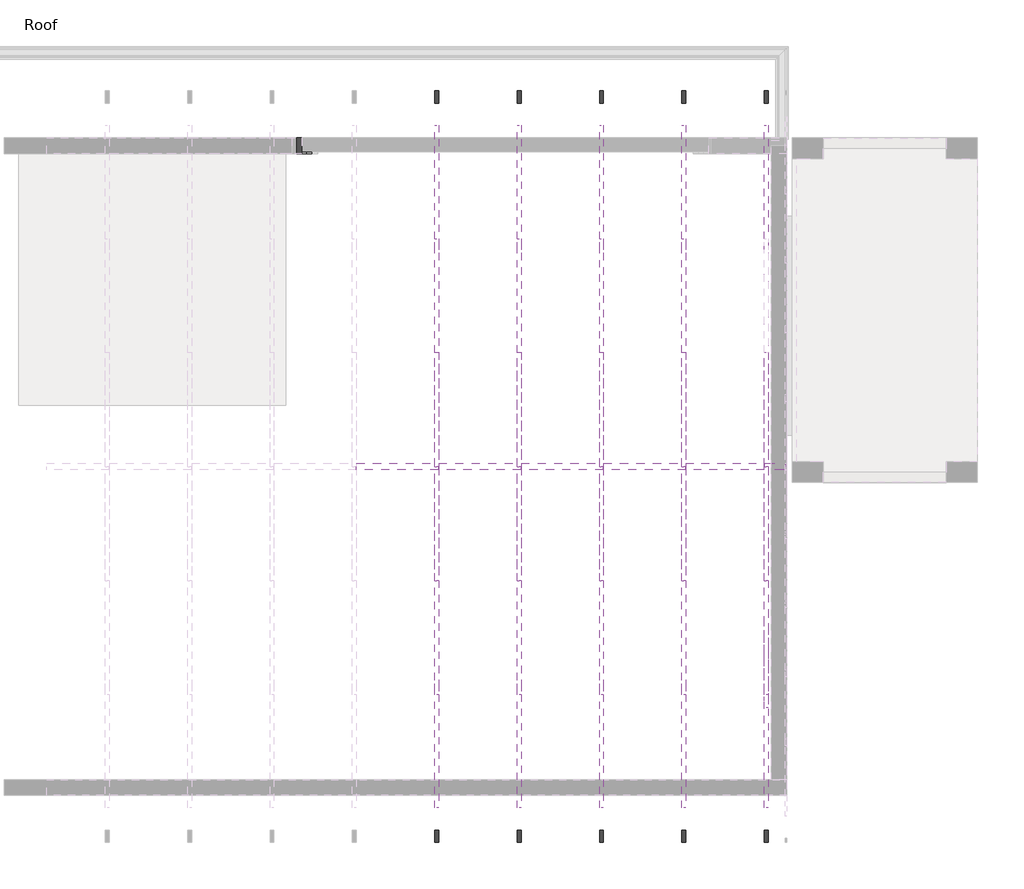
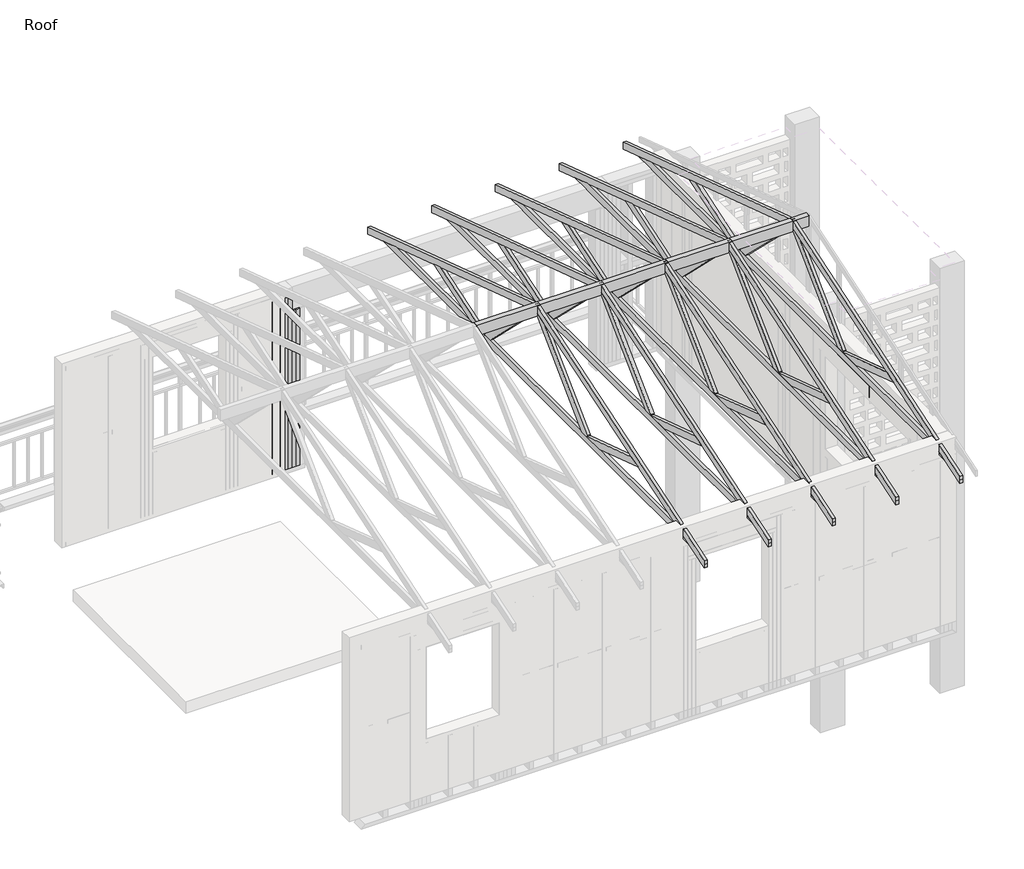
# One storey, part 5 of 6: 95 beams.
"""IFC4 building model written with IfcOpenShell, lengths in millimetres."""

import ifcopenshell
import ifcopenshell.guid

model = None  # the IFC model being written
_history = None  # IfcOwnerHistory: only IFC2X3 demands one
_inside = {}  # id of a spatial element -> (the spatial element, [elements in it])
_under = {}  # id of a project, library or spatial element -> (it, [spatial elements below it])
_declared = {}  # id of a project -> (the project, [libraries it declares])
_typed = {}  # id of a type object -> (the type object, [elements of that type])
_made_of = {}  # id of a material, layer set ... -> (it, [elements and type objects made of it])


def new_model(schema):
    """Start an empty IFC model of exactly this schema.

    Asked for "IFC4X3", IfcOpenShell would pick the latest addendum, in which some entities
    have other attributes; the version numbers below select the first issue.
    IFC2X3 requires an IfcOwnerHistory on every rooted entity: one is made here for all.
    """
    global model, _history
    if schema == "IFC4X3":
        model = ifcopenshell.file(schema_version=(4, 3, 0, 0))
    else:
        model = ifcopenshell.file(schema=schema)
    _inside.clear()
    _under.clear()
    _declared.clear()
    _typed.clear()
    _made_of.clear()
    _history = None
    if model.schema == "IFC2X3":
        org = make("IfcOrganization", Name="unknown")
        user = make(
            "IfcPersonAndOrganization",
            ThePerson=make("IfcPerson", FamilyName="unknown"),
            TheOrganization=org,
        )
        app = make(
            "IfcApplication",
            ApplicationDeveloper=org,
            Version="unknown",
            ApplicationFullName="unknown",
            ApplicationIdentifier="unknown",
        )
        _history = make(
            "IfcOwnerHistory",
            OwningUser=user,
            OwningApplication=app,
            ChangeAction="ADDED",
            CreationDate=0,
        )
    return model


def make(cls, **values):
    """One entity of the class cls with the attributes given. An attribute that is None is left unset."""
    return model.create_entity(
        cls, **{name: value for name, value in values.items() if value is not None}
    )


def rooted(cls, **values):
    """An entity with a GlobalId (a new one), such as an element, a storey or a relation."""
    return make(cls, GlobalId=ifcopenshell.guid.new(), OwnerHistory=_history, **values)


def si_unit(unit_type, name, prefix=None):
    """IfcSIUnit, for example si_unit("LENGTHUNIT", "METRE", prefix="MILLI")."""
    return make("IfcSIUnit", UnitType=unit_type, Prefix=prefix, Name=name)


def assignment(units):
    """IfcUnitAssignment: the units of a project."""
    return None if units is None else make("IfcUnitAssignment", Units=units)


def point(xyz):
    """IfcCartesianPoint."""
    return None if xyz is None else make("IfcCartesianPoint", Coordinates=xyz)


def direction(xyz):
    """IfcDirection."""
    return None if xyz is None else make("IfcDirection", DirectionRatios=xyz)


def frame(location, z_axis=None, x_axis=None):
    """IfcAxis2Placement3D, a coordinate frame: its origin and axes. An axis left out is left unset."""
    return make(
        "IfcAxis2Placement3D",
        Location=point(location),
        Axis=direction(z_axis),
        RefDirection=direction(x_axis),
    )


def origin():
    """The frame at (0, 0, 0) with its axes left unset."""
    return frame((0.0, 0.0, 0.0))


def place(relative_to, where):
    """IfcLocalPlacement: puts the frame where relative to a parent placement (None: the world)."""
    return make(
        "IfcLocalPlacement", PlacementRelTo=relative_to, RelativePlacement=where
    )


def context(
    kind, dimensions, precision=None, world=None, true_north=None, identifier=None
):
    """IfcGeometricRepresentationContext, for example the 3D "Model" context."""
    return make(
        "IfcGeometricRepresentationContext",
        ContextIdentifier=identifier,
        ContextType=kind,
        CoordinateSpaceDimension=dimensions,
        Precision=precision,
        WorldCoordinateSystem=world,
        TrueNorth=true_north,
    )


def project(units=None, contexts=None):
    """IfcProject with its units and contexts."""
    return rooted(
        "IfcProject",
        Name="project",
        RepresentationContexts=contexts,
        UnitsInContext=assignment(units),
    )


def spatial(cls, under=None, at=None, **own):
    """A site, building, storey or space (cls), placed at a placement, below another one or the project."""
    s = rooted(cls, ObjectPlacement=at, **own)
    if under is not None:
        _under.setdefault(under.id(), (under, []))[1].append(s)
    return s


def polyline(points):
    """IfcPolyline through the points."""
    return make("IfcPolyline", Points=[point(p) for p in points])


def outline(outer, holes=None, kind="AREA"):
    """IfcArbitraryClosedProfileDef: a profile drawn as a closed curve; with holes, ...WithVoids."""
    if holes is None:
        return make("IfcArbitraryClosedProfileDef", ProfileType=kind, OuterCurve=outer)
    return make(
        "IfcArbitraryProfileDefWithVoids",
        ProfileType=kind,
        OuterCurve=outer,
        InnerCurves=holes,
    )


def extrude(swept, where, along, depth):
    """IfcExtrudedAreaSolid: the profile swept, set in the frame where, extruded along a direction by depth."""
    return make(
        "IfcExtrudedAreaSolid",
        SweptArea=swept,
        Position=where,
        ExtrudedDirection=direction(along),
        Depth=depth,
    )


def shape(context_of_items, identifier, shape_type, items):
    """IfcShapeRepresentation: the items that make up one representation, for example the "Body"."""
    return make(
        "IfcShapeRepresentation",
        ContextOfItems=context_of_items,
        RepresentationIdentifier=identifier,
        RepresentationType=shape_type,
        Items=items,
    )


def source(mapping_origin, context_of_items, identifier, shape_type, items):
    """IfcRepresentationMap: a shape defined once, which mapped items show again and again."""
    return make(
        "IfcRepresentationMap",
        MappingOrigin=mapping_origin,
        MappedRepresentation=shape(context_of_items, identifier, shape_type, items),
    )


def transform(
    local_origin,
    x_axis=None,
    y_axis=None,
    z_axis=None,
    scale=None,
    scale2=None,
    scale3=None,
    uniform=True,
):
    """IfcCartesianTransformationOperator3D, or its non-uniform kind. x_axis, y_axis, z_axis: its Axis1, 2, 3."""
    if uniform:
        return make(
            "IfcCartesianTransformationOperator3D",
            Axis1=direction(x_axis),
            Axis2=direction(y_axis),
            LocalOrigin=point(local_origin),
            Scale=scale,
            Axis3=direction(z_axis),
        )
    return make(
        "IfcCartesianTransformationOperator3DnonUniform",
        Axis1=direction(x_axis),
        Axis2=direction(y_axis),
        LocalOrigin=point(local_origin),
        Scale=scale,
        Axis3=direction(z_axis),
        Scale2=scale2,
        Scale3=scale3,
    )


def mapped(mapping_source, mapping_target):
    """IfcMappedItem: shows the shape of a source again, moved by a transform."""
    return make(
        "IfcMappedItem", MappingSource=mapping_source, MappingTarget=mapping_target
    )


def made_of(thing, what):
    """Note that an element or type object is made of a material, layer set ...; save() writes the relation."""
    if what is not None:
        _made_of.setdefault(what.id(), (what, []))[1].append(thing)
    return thing


def element(
    cls,
    number,
    at=None,
    inside=None,
    cuts=None,
    type_object=None,
    material=None,
    context=None,
    identifier="Body",
    shape_type=None,
    held_by="IfcProductDefinitionShape",
    body=None,
    shapes=None,
    **own,
):
    """One element of the class cls, such as IfcWall. Its Tag is "e" and its number.

    at: its placement. inside: the storey or other place that contains it. cuts: it is an
    opening in that element (IfcRelVoidsElement). A single representation is given by context,
    identifier, shape_type and body (its items); several are given by shapes. held_by: the class
    of the entity that holds the representations. save() writes the other relations.
    """
    e = rooted(cls, Tag="e%d" % number, ObjectPlacement=at, **own)
    if body is not None:
        shapes = [shape(context, identifier, shape_type, body)]
    if shapes is not None:
        e.Representation = make(held_by, Representations=shapes)
    if inside is not None:
        _inside.setdefault(inside.id(), (inside, []))[1].append(e)
    if cuts is not None:
        rooted(
            "IfcRelVoidsElement", RelatingBuildingElement=cuts, RelatedOpeningElement=e
        )
    if type_object is not None:
        _typed.setdefault(type_object.id(), (type_object, []))[1].append(e)
    return made_of(e, material)


def aggregate(whole, parts):
    """IfcRelAggregates: a whole, such as a stair, and the parts it consists of."""
    return rooted("IfcRelAggregates", RelatingObject=whole, RelatedObjects=parts)


def save(model, path):
    """Write the relations noted so far, then the file.

    IfcRelAggregates (storeys below a building ...), IfcRelContainedInSpatialStructure (elements
    in a storey), IfcRelDefinesByType, IfcRelAssociatesMaterial and IfcRelDeclares: one each for
    every whole, place, type object, material and project.
    """
    for whole, parts in _under.values():
        aggregate(whole, parts)
    for where, things in _inside.values():
        rooted(
            "IfcRelContainedInSpatialStructure",
            RelatedElements=things,
            RelatingStructure=where,
        )
    for kind, things in _typed.values():
        rooted("IfcRelDefinesByType", RelatedObjects=things, RelatingType=kind)
    for what, things in _made_of.values():
        rooted("IfcRelAssociatesMaterial", RelatedObjects=things, RelatingMaterial=what)
    for by, libraries in _declared.values():
        rooted("IfcRelDeclares", RelatingContext=by, RelatedDefinitions=libraries)
    model.write(path)


def experttrusspart_2_x_4_5d1fd198(model_context):
    return source(origin(), model_context, "Body", "SweptSolid", [
        extrude(outline(polyline([(88.9, -3050.0718577), (44.45, -3186.2590918), (0.0, -3322.4463258), (0.0, 3322.4463258), (44.45, 3186.2590918), (88.9, 3050.0718577), (88.9, -3050.0718577)])), frame((0.0, -19.05, 0.0), z_axis=(0.0, 1.0, 0.0), x_axis=(0.0, 0.0, 1.0)), (0.0, 0.0, 1.0), 38.1),
    ])


def experttrusspart_2_x_4_7bcd8695(model_context):
    return source(origin(), model_context, "Body", "SweptSolid", [
        extrude(outline(polyline([(88.9, -1938.2540842), (44.45, -1923.7460981), (0.0, -1909.238112), (0.0, 1938.2540842), (44.45, 1923.7460981), (88.9, 1909.238112), (88.9, -1938.2540842)])), frame((0.0, -19.05, 0.0), z_axis=(0.0, 1.0, 0.0), x_axis=(0.0, 0.0, 1.0)), (0.0, 0.0, 1.0), 38.1),
    ])


def beam_a0387a4f(model_context):
    return source(origin(), model_context, "Body", "SweptSolid", [
        extrude(outline(polyline([(1042.2659716, 25.4), (1042.2659716, -25.4), (-1042.2659716, -25.4), (-1042.2659716, 25.4), (1042.2659716, 25.4)])), frame((0.0, 0.0, -76.2), z_axis=(0.0, 0.0, 1.0), x_axis=(1.0, 0.0, 0.0)), (0.0, 0.0, 1.0), 152.4),
    ])


def beam_f90036b5(model_context):
    return source(origin(), model_context, "Body", "SweptSolid", [
        extrude(outline(polyline([(1143.9504566, 25.4), (1143.9504566, -25.4), (-1143.9504566, -25.4), (-1143.9504566, 25.4), (1143.9504566, 25.4)])), frame((0.0, 0.0, -76.2), z_axis=(0.0, 0.0, 1.0), x_axis=(1.0, 0.0, 0.0)), (0.0, 0.0, 1.0), 152.4),
    ])


def beam_558964e0(model_context):
    return source(origin(), model_context, "Body", "SweptSolid", [
        extrude(outline(polyline([(1143.0, 25.4), (1143.0, -25.4), (-1143.0, -25.4), (-1143.0, 25.4), (1143.0, 25.4)])), frame((0.0, 0.0, -76.2), z_axis=(0.0, 0.0, 1.0), x_axis=(1.0, 0.0, 0.0)), (0.0, 0.0, 1.0), 152.4),
    ])


def beam_a7231d91(model_context):
    return source(origin(), model_context, "Body", "SweptSolid", [
        extrude(outline(polyline([(508.01, 25.4), (508.01, -25.4), (-508.01, -25.4), (-508.01, 25.4), (508.01, 25.4)])), frame((0.0, 0.0, -76.2), z_axis=(0.0, 0.0, 1.0), x_axis=(1.0, 0.0, 0.0)), (0.0, 0.0, 1.0), 152.4),
    ])


def beam_13b1c9db(model_context):
    return source(origin(), model_context, "Body", "SweptSolid", [
        extrude(outline(polyline([(-165.1025, -69.85), (-165.1025, 69.85), (165.1025, 69.85), (165.1025, -69.85), (-165.1025, -69.85)])), frame((0.0, 0.0, -31.75), z_axis=(0.0, 0.0, 1.0), x_axis=(1.0, 0.0, 0.0)), (0.0, 0.0, 1.0), 63.5),
    ])


model = new_model("IFC4")

# Units and contexts
model_context = context("Model", 3, world=origin())
ifc_project = project(units=[si_unit("LENGTHUNIT", "METRE", prefix="MILLI")], contexts=[model_context])

# Site, building, storey
site = spatial("IfcSite", under=ifc_project)
building = spatial("IfcBuilding", under=site)
storey = spatial("IfcBuildingStorey", under=building, Name="Roof", Elevation=4267.2)

# Beams
placement = place(None, origin())
element("IfcBeam", 1, ObjectType="ExpertTrussPart : 2 x 4", at=placement, inside=storey, context=model_context, shape_type="SweptSolid", body=[
    extrude(outline(polyline([(-21793.4464104, 6567.1254915), (-20848.8530293, 5642.2111391), (-20850.5374103, 5626.1), (-20959.4672099, 5626.1), (-21960.3763369, 6606.1568536), (-21960.3763369, 6621.6095647), (-21793.4464104, 6567.1254915)])), frame((-7337.8324099, 0.0, 0.0), z_axis=(1.0, 0.0, 0.0), x_axis=(0.0, 1.0, 0.0)), (0.0, 0.0, 1.0), 38.1),
])
element("IfcBeam", 2, ObjectType="ExpertTrussPart : 2 x 4", at=placement, inside=storey, context=model_context, shape_type="SweptSolid", body=[
    extrude(outline(polyline([(-19883.9561718, 5943.8890941), (-19812.3273277, 5920.5102353), (-19740.6984836, 5897.1313765), (-20571.0924881, 5626.1), (-20850.5374103, 5626.1), (-20850.2876203, 5628.4892463), (-19883.9561718, 5943.8890941)])), frame((-7337.8324099, 0.0, 0.0), z_axis=(1.0, 0.0, 0.0), x_axis=(0.0, 1.0, 0.0)), (0.0, 0.0, 1.0), 38.1),
])
element("IfcBeam", 3, ObjectType="ExpertTrussPart : 2 x 4", at=placement, inside=storey, context=model_context, shape_type="SweptSolid", body=[
    extrude(outline(polyline([(-22127.3062634, 6567.1254915), (-21960.3763369, 6621.6095647), (-21960.3763369, 6606.1568536), (-22961.2854639, 5626.1), (-23070.2152636, 5626.1), (-23071.8996445, 5642.2111391), (-22127.3062634, 6567.1254915)])), frame((-7337.8324099, 0.0, 0.0), z_axis=(1.0, 0.0, 0.0), x_axis=(0.0, 1.0, 0.0)), (0.0, 0.0, 1.0), 38.1),
])
element("IfcBeam", 4, ObjectType="ExpertTrussPart : 2 x 4", at=placement, inside=storey, context=model_context, shape_type="SweptSolid", body=[
    extrude(outline(polyline([(-24036.796502, 5943.8890941), (-23070.4650535, 5628.4892463), (-23070.2152636, 5626.1), (-23349.6601858, 5626.1), (-24180.0541902, 5897.1313765), (-24108.4253461, 5920.5102353), (-24036.796502, 5943.8890941)])), frame((-7337.8324099, 0.0, 0.0), z_axis=(1.0, 0.0, 0.0), x_axis=(0.0, 1.0, 0.0)), (0.0, 0.0, 1.0), 38.1),
])
element("IfcBeam", 5, ObjectType="ExpertTrussPart : 2 x 4", at=placement, inside=storey, context=model_context, shape_type="SweptSolid", body=[
    extrude(outline(polyline([(-21793.4464104, 6567.1254915), (-20848.8530293, 5642.2111391), (-20850.5374103, 5626.1), (-20959.4672099, 5626.1), (-21960.3763369, 6606.1568536), (-21960.3763369, 6621.6095647), (-21793.4464104, 6567.1254915)])), frame((-6536.0390766, 0.0, 0.0), z_axis=(1.0, 0.0, 0.0), x_axis=(0.0, 1.0, 0.0)), (0.0, 0.0, 1.0), 38.1),
])
element("IfcBeam", 6, ObjectType="ExpertTrussPart : 2 x 4", at=placement, inside=storey, context=model_context, shape_type="SweptSolid", body=[
    extrude(outline(polyline([(-19883.9561718, 5943.8890941), (-19812.3273277, 5920.5102353), (-19740.6984836, 5897.1313765), (-20571.0924881, 5626.1), (-20850.5374103, 5626.1), (-20850.2876203, 5628.4892463), (-19883.9561718, 5943.8890941)])), frame((-6536.0390766, 0.0, 0.0), z_axis=(1.0, 0.0, 0.0), x_axis=(0.0, 1.0, 0.0)), (0.0, 0.0, 1.0), 38.1),
])
element("IfcBeam", 7, ObjectType="ExpertTrussPart : 2 x 4", at=placement, inside=storey, context=model_context, shape_type="SweptSolid", body=[
    extrude(outline(polyline([(-22127.3062634, 6567.1254915), (-21960.3763369, 6621.6095647), (-21960.3763369, 6606.1568536), (-22961.2854639, 5626.1), (-23070.2152636, 5626.1), (-23071.8996445, 5642.2111391), (-22127.3062634, 6567.1254915)])), frame((-6536.0390766, 0.0, 0.0), z_axis=(1.0, 0.0, 0.0), x_axis=(0.0, 1.0, 0.0)), (0.0, 0.0, 1.0), 38.1),
])
element("IfcBeam", 8, ObjectType="ExpertTrussPart : 2 x 4", at=placement, inside=storey, context=model_context, shape_type="SweptSolid", body=[
    extrude(outline(polyline([(-24036.796502, 5943.8890941), (-23070.4650535, 5628.4892463), (-23070.2152636, 5626.1), (-23349.6601858, 5626.1), (-24180.0541902, 5897.1313765), (-24108.4253461, 5920.5102353), (-24036.796502, 5943.8890941)])), frame((-6536.0390766, 0.0, 0.0), z_axis=(1.0, 0.0, 0.0), x_axis=(0.0, 1.0, 0.0)), (0.0, 0.0, 1.0), 38.1),
])
element("IfcBeam", 9, ObjectType="ExpertTrussPart : 2 x 4", at=placement, inside=storey, context=model_context, shape_type="SweptSolid", body=[
    extrude(outline(polyline([(-21793.4464104, 6567.1254915), (-20848.8530293, 5642.2111391), (-20850.5374103, 5626.1), (-20959.4672099, 5626.1), (-21960.3763369, 6606.1568536), (-21960.3763369, 6621.6095647), (-21793.4464104, 6567.1254915)])), frame((-5734.2457433, 0.0, 0.0), z_axis=(1.0, 0.0, 0.0), x_axis=(0.0, 1.0, 0.0)), (0.0, 0.0, 1.0), 38.1),
])
element("IfcBeam", 10, ObjectType="ExpertTrussPart : 2 x 4", at=placement, inside=storey, context=model_context, shape_type="SweptSolid", body=[
    extrude(outline(polyline([(-19883.9561718, 5943.8890941), (-19812.3273277, 5920.5102353), (-19740.6984836, 5897.1313765), (-20571.0924881, 5626.1), (-20850.5374103, 5626.1), (-20850.2876203, 5628.4892463), (-19883.9561718, 5943.8890941)])), frame((-5734.2457433, 0.0, 0.0), z_axis=(1.0, 0.0, 0.0), x_axis=(0.0, 1.0, 0.0)), (0.0, 0.0, 1.0), 38.1),
])
element("IfcBeam", 11, ObjectType="ExpertTrussPart : 2 x 4", at=placement, inside=storey, context=model_context, shape_type="SweptSolid", body=[
    extrude(outline(polyline([(-22127.3062634, 6567.1254915), (-21960.3763369, 6621.6095647), (-21960.3763369, 6606.1568536), (-22961.2854639, 5626.1), (-23070.2152636, 5626.1), (-23071.8996445, 5642.2111391), (-22127.3062634, 6567.1254915)])), frame((-5734.2457433, 0.0, 0.0), z_axis=(1.0, 0.0, 0.0), x_axis=(0.0, 1.0, 0.0)), (0.0, 0.0, 1.0), 38.1),
])
element("IfcBeam", 12, ObjectType="ExpertTrussPart : 2 x 4", at=placement, inside=storey, context=model_context, shape_type="SweptSolid", body=[
    extrude(outline(polyline([(-24036.796502, 5943.8890941), (-23070.4650535, 5628.4892463), (-23070.2152636, 5626.1), (-23349.6601858, 5626.1), (-24180.0541902, 5897.1313765), (-24108.4253461, 5920.5102353), (-24036.796502, 5943.8890941)])), frame((-5734.2457433, 0.0, 0.0), z_axis=(1.0, 0.0, 0.0), x_axis=(0.0, 1.0, 0.0)), (0.0, 0.0, 1.0), 38.1),
])
element("IfcBeam", 13, ObjectType="ExpertTrussPart : 2 x 4", at=placement, inside=storey, context=model_context, shape_type="SweptSolid", body=[
    extrude(outline(polyline([(-21793.4464104, 6567.1254915), (-20848.8530293, 5642.2111391), (-20850.5374103, 5626.1), (-20959.4672099, 5626.1), (-21960.3763369, 6606.1568536), (-21960.3763369, 6621.6095647), (-21793.4464104, 6567.1254915)])), frame((-4932.4524099, 0.0, 0.0), z_axis=(1.0, 0.0, 0.0), x_axis=(0.0, 1.0, 0.0)), (0.0, 0.0, 1.0), 38.1),
])
element("IfcBeam", 14, ObjectType="ExpertTrussPart : 2 x 4", at=placement, inside=storey, context=model_context, shape_type="SweptSolid", body=[
    extrude(outline(polyline([(-19883.9561718, 5943.8890941), (-19812.3273277, 5920.5102353), (-19740.6984836, 5897.1313765), (-20571.0924881, 5626.1), (-20850.5374103, 5626.1), (-20850.2876203, 5628.4892463), (-19883.9561718, 5943.8890941)])), frame((-4932.4524099, 0.0, 0.0), z_axis=(1.0, 0.0, 0.0), x_axis=(0.0, 1.0, 0.0)), (0.0, 0.0, 1.0), 38.1),
])
element("IfcBeam", 15, ObjectType="ExpertTrussPart : 2 x 4", at=placement, inside=storey, context=model_context, shape_type="SweptSolid", body=[
    extrude(outline(polyline([(-22127.3062634, 6567.1254915), (-21960.3763369, 6621.6095647), (-21960.3763369, 6606.1568536), (-22961.2854639, 5626.1), (-23070.2152636, 5626.1), (-23071.8996445, 5642.2111391), (-22127.3062634, 6567.1254915)])), frame((-4932.4524099, 0.0, 0.0), z_axis=(1.0, 0.0, 0.0), x_axis=(0.0, 1.0, 0.0)), (0.0, 0.0, 1.0), 38.1),
])
element("IfcBeam", 16, ObjectType="ExpertTrussPart : 2 x 4", at=placement, inside=storey, context=model_context, shape_type="SweptSolid", body=[
    extrude(outline(polyline([(-24036.796502, 5943.8890941), (-23070.4650535, 5628.4892463), (-23070.2152636, 5626.1), (-23349.6601858, 5626.1), (-24180.0541902, 5897.1313765), (-24108.4253461, 5920.5102353), (-24036.796502, 5943.8890941)])), frame((-4932.4524099, 0.0, 0.0), z_axis=(1.0, 0.0, 0.0), x_axis=(0.0, 1.0, 0.0)), (0.0, 0.0, 1.0), 38.1),
])
element("IfcBeam", 17, ObjectType="ExpertTrussPart : 2 x 4", at=placement, inside=storey, context=model_context, shape_type="SweptSolid", body=[
    extrude(outline(polyline([(-21793.4464104, 6567.1254915), (-20848.8530293, 5642.2111391), (-20850.5374103, 5626.1), (-20959.4672099, 5626.1), (-21960.3763369, 6606.1568536), (-21960.3763369, 6621.6095647), (-21793.4464104, 6567.1254915)])), frame((-4130.6590766, 0.0, 0.0), z_axis=(1.0, 0.0, 0.0), x_axis=(0.0, 1.0, 0.0)), (0.0, 0.0, 1.0), 38.1),
])
element("IfcBeam", 18, ObjectType="ExpertTrussPart : 2 x 4", at=placement, inside=storey, context=model_context, shape_type="SweptSolid", body=[
    extrude(outline(polyline([(-19883.9561718, 5943.8890941), (-19812.3273277, 5920.5102353), (-19740.6984836, 5897.1313765), (-20571.0924881, 5626.1), (-20850.5374103, 5626.1), (-20850.2876203, 5628.4892463), (-19883.9561718, 5943.8890941)])), frame((-4130.6590766, 0.0, 0.0), z_axis=(1.0, 0.0, 0.0), x_axis=(0.0, 1.0, 0.0)), (0.0, 0.0, 1.0), 38.1),
])
element("IfcBeam", 19, ObjectType="ExpertTrussPart : 2 x 4", at=placement, inside=storey, context=model_context, shape_type="SweptSolid", body=[
    extrude(outline(polyline([(-22127.3062634, 6567.1254915), (-21960.3763369, 6621.6095647), (-21960.3763369, 6606.1568536), (-22961.2854639, 5626.1), (-23070.2152636, 5626.1), (-23071.8996445, 5642.2111391), (-22127.3062634, 6567.1254915)])), frame((-4130.6590766, 0.0, 0.0), z_axis=(1.0, 0.0, 0.0), x_axis=(0.0, 1.0, 0.0)), (0.0, 0.0, 1.0), 38.1),
])
element("IfcBeam", 20, ObjectType="ExpertTrussPart : 2 x 4", at=placement, inside=storey, context=model_context, shape_type="SweptSolid", body=[
    extrude(outline(polyline([(-24036.796502, 5943.8890941), (-23070.4650535, 5628.4892463), (-23070.2152636, 5626.1), (-23349.6601858, 5626.1), (-24180.0541902, 5897.1313765), (-24108.4253461, 5920.5102353), (-24036.796502, 5943.8890941)])), frame((-4130.6590766, 0.0, 0.0), z_axis=(1.0, 0.0, 0.0), x_axis=(0.0, 1.0, 0.0)), (0.0, 0.0, 1.0), 38.1),
])
element("IfcBeam", 21, ObjectType="ExpertTrussPart : 2 x 4", at=placement, inside=storey, context=model_context, shape_type="SweptSolid", body=[
    extrude(outline(polyline([(-21793.4464104, 6567.1254915), (-20848.8530293, 5642.2111391), (-20850.5374103, 5626.1), (-20959.4672099, 5626.1), (-21960.3763369, 6606.1568536), (-21960.3763369, 6621.6095647), (-21793.4464104, 6567.1254915)])), frame((-7337.8324099, 0.0, 0.0), z_axis=(1.0, 0.0, 0.0), x_axis=(0.0, 1.0, 0.0)), (0.0, 0.0, 1.0), 38.1),
])
element("IfcBeam", 22, ObjectType="ExpertTrussPart : 2 x 4", at=placement, inside=storey, context=model_context, shape_type="SweptSolid", body=[
    extrude(outline(polyline([(-19883.9561718, 5943.8890941), (-19812.3273277, 5920.5102353), (-19740.6984836, 5897.1313765), (-20571.0924881, 5626.1), (-20850.5374103, 5626.1), (-20850.2876203, 5628.4892463), (-19883.9561718, 5943.8890941)])), frame((-7337.8324099, 0.0, 0.0), z_axis=(1.0, 0.0, 0.0), x_axis=(0.0, 1.0, 0.0)), (0.0, 0.0, 1.0), 38.1),
])
element("IfcBeam", 23, ObjectType="ExpertTrussPart : 2 x 4", at=placement, inside=storey, context=model_context, shape_type="SweptSolid", body=[
    extrude(outline(polyline([(-22127.3062634, 6567.1254915), (-21960.3763369, 6621.6095647), (-21960.3763369, 6606.1568536), (-22961.2854639, 5626.1), (-23070.2152636, 5626.1), (-23071.8996445, 5642.2111391), (-22127.3062634, 6567.1254915)])), frame((-7337.8324099, 0.0, 0.0), z_axis=(1.0, 0.0, 0.0), x_axis=(0.0, 1.0, 0.0)), (0.0, 0.0, 1.0), 38.1),
])
element("IfcBeam", 24, ObjectType="ExpertTrussPart : 2 x 4", at=placement, inside=storey, context=model_context, shape_type="SweptSolid", body=[
    extrude(outline(polyline([(-24036.796502, 5943.8890941), (-23070.4650535, 5628.4892463), (-23070.2152636, 5626.1), (-23349.6601858, 5626.1), (-24180.0541902, 5897.1313765), (-24108.4253461, 5920.5102353), (-24036.796502, 5943.8890941)])), frame((-7337.8324099, 0.0, 0.0), z_axis=(1.0, 0.0, 0.0), x_axis=(0.0, 1.0, 0.0)), (0.0, 0.0, 1.0), 38.1),
])
element("IfcBeam", 25, ObjectType="ExpertTrussPart : 2 x 4", at=placement, inside=storey, context=model_context, shape_type="SweptSolid", body=[
    extrude(outline(polyline([(-21793.4464104, 6567.1254915), (-20848.8530293, 5642.2111391), (-20850.5374103, 5626.1), (-20959.4672099, 5626.1), (-21960.3763369, 6606.1568536), (-21960.3763369, 6621.6095647), (-21793.4464104, 6567.1254915)])), frame((-6536.0390766, 0.0, 0.0), z_axis=(1.0, 0.0, 0.0), x_axis=(0.0, 1.0, 0.0)), (0.0, 0.0, 1.0), 38.1),
])
element("IfcBeam", 26, ObjectType="ExpertTrussPart : 2 x 4", at=placement, inside=storey, context=model_context, shape_type="SweptSolid", body=[
    extrude(outline(polyline([(-19883.9561718, 5943.8890941), (-19812.3273277, 5920.5102353), (-19740.6984836, 5897.1313765), (-20571.0924881, 5626.1), (-20850.5374103, 5626.1), (-20850.2876203, 5628.4892463), (-19883.9561718, 5943.8890941)])), frame((-6536.0390766, 0.0, 0.0), z_axis=(1.0, 0.0, 0.0), x_axis=(0.0, 1.0, 0.0)), (0.0, 0.0, 1.0), 38.1),
])
element("IfcBeam", 27, ObjectType="ExpertTrussPart : 2 x 4", at=placement, inside=storey, context=model_context, shape_type="SweptSolid", body=[
    extrude(outline(polyline([(-22127.3062634, 6567.1254915), (-21960.3763369, 6621.6095647), (-21960.3763369, 6606.1568536), (-22961.2854639, 5626.1), (-23070.2152636, 5626.1), (-23071.8996445, 5642.2111391), (-22127.3062634, 6567.1254915)])), frame((-6536.0390766, 0.0, 0.0), z_axis=(1.0, 0.0, 0.0), x_axis=(0.0, 1.0, 0.0)), (0.0, 0.0, 1.0), 38.1),
])
element("IfcBeam", 28, ObjectType="ExpertTrussPart : 2 x 4", at=placement, inside=storey, context=model_context, shape_type="SweptSolid", body=[
    extrude(outline(polyline([(-24036.796502, 5943.8890941), (-23070.4650535, 5628.4892463), (-23070.2152636, 5626.1), (-23349.6601858, 5626.1), (-24180.0541902, 5897.1313765), (-24108.4253461, 5920.5102353), (-24036.796502, 5943.8890941)])), frame((-6536.0390766, 0.0, 0.0), z_axis=(1.0, 0.0, 0.0), x_axis=(0.0, 1.0, 0.0)), (0.0, 0.0, 1.0), 38.1),
])
element("IfcBeam", 29, ObjectType="ExpertTrussPart : 2 x 4", at=placement, inside=storey, context=model_context, shape_type="SweptSolid", body=[
    extrude(outline(polyline([(-21793.4464104, 6567.1254915), (-20848.8530293, 5642.2111391), (-20850.5374103, 5626.1), (-20959.4672099, 5626.1), (-21960.3763369, 6606.1568536), (-21960.3763369, 6621.6095647), (-21793.4464104, 6567.1254915)])), frame((-5734.2457433, 0.0, 0.0), z_axis=(1.0, 0.0, 0.0), x_axis=(0.0, 1.0, 0.0)), (0.0, 0.0, 1.0), 38.1),
])
element("IfcBeam", 30, ObjectType="ExpertTrussPart : 2 x 4", at=placement, inside=storey, context=model_context, shape_type="SweptSolid", body=[
    extrude(outline(polyline([(-19883.9561718, 5943.8890941), (-19812.3273277, 5920.5102353), (-19740.6984836, 5897.1313765), (-20571.0924881, 5626.1), (-20850.5374103, 5626.1), (-20850.2876203, 5628.4892463), (-19883.9561718, 5943.8890941)])), frame((-5734.2457433, 0.0, 0.0), z_axis=(1.0, 0.0, 0.0), x_axis=(0.0, 1.0, 0.0)), (0.0, 0.0, 1.0), 38.1),
])
element("IfcBeam", 31, ObjectType="ExpertTrussPart : 2 x 4", at=placement, inside=storey, context=model_context, shape_type="SweptSolid", body=[
    extrude(outline(polyline([(-22127.3062634, 6567.1254915), (-21960.3763369, 6621.6095647), (-21960.3763369, 6606.1568536), (-22961.2854639, 5626.1), (-23070.2152636, 5626.1), (-23071.8996445, 5642.2111391), (-22127.3062634, 6567.1254915)])), frame((-5734.2457433, 0.0, 0.0), z_axis=(1.0, 0.0, 0.0), x_axis=(0.0, 1.0, 0.0)), (0.0, 0.0, 1.0), 38.1),
])
element("IfcBeam", 32, ObjectType="ExpertTrussPart : 2 x 4", at=placement, inside=storey, context=model_context, shape_type="SweptSolid", body=[
    extrude(outline(polyline([(-24036.796502, 5943.8890941), (-23070.4650535, 5628.4892463), (-23070.2152636, 5626.1), (-23349.6601858, 5626.1), (-24180.0541902, 5897.1313765), (-24108.4253461, 5920.5102353), (-24036.796502, 5943.8890941)])), frame((-5734.2457433, 0.0, 0.0), z_axis=(1.0, 0.0, 0.0), x_axis=(0.0, 1.0, 0.0)), (0.0, 0.0, 1.0), 38.1),
])
element("IfcBeam", 33, ObjectType="ExpertTrussPart : 2 x 4", at=placement, inside=storey, context=model_context, shape_type="SweptSolid", body=[
    extrude(outline(polyline([(-21793.4464104, 6567.1254915), (-20848.8530293, 5642.2111391), (-20850.5374103, 5626.1), (-20959.4672099, 5626.1), (-21960.3763369, 6606.1568536), (-21960.3763369, 6621.6095647), (-21793.4464104, 6567.1254915)])), frame((-4932.4524099, 0.0, 0.0), z_axis=(1.0, 0.0, 0.0), x_axis=(0.0, 1.0, 0.0)), (0.0, 0.0, 1.0), 38.1),
])
element("IfcBeam", 34, ObjectType="ExpertTrussPart : 2 x 4", at=placement, inside=storey, context=model_context, shape_type="SweptSolid", body=[
    extrude(outline(polyline([(-19883.9561718, 5943.8890941), (-19812.3273277, 5920.5102353), (-19740.6984836, 5897.1313765), (-20571.0924881, 5626.1), (-20850.5374103, 5626.1), (-20850.2876203, 5628.4892463), (-19883.9561718, 5943.8890941)])), frame((-4932.4524099, 0.0, 0.0), z_axis=(1.0, 0.0, 0.0), x_axis=(0.0, 1.0, 0.0)), (0.0, 0.0, 1.0), 38.1),
])
element("IfcBeam", 35, ObjectType="ExpertTrussPart : 2 x 4", at=placement, inside=storey, context=model_context, shape_type="SweptSolid", body=[
    extrude(outline(polyline([(-22127.3062634, 6567.1254915), (-21960.3763369, 6621.6095647), (-21960.3763369, 6606.1568536), (-22961.2854639, 5626.1), (-23070.2152636, 5626.1), (-23071.8996445, 5642.2111391), (-22127.3062634, 6567.1254915)])), frame((-4932.4524099, 0.0, 0.0), z_axis=(1.0, 0.0, 0.0), x_axis=(0.0, 1.0, 0.0)), (0.0, 0.0, 1.0), 38.1),
])
element("IfcBeam", 36, ObjectType="ExpertTrussPart : 2 x 4", at=placement, inside=storey, context=model_context, shape_type="SweptSolid", body=[
    extrude(outline(polyline([(-24036.796502, 5943.8890941), (-23070.4650535, 5628.4892463), (-23070.2152636, 5626.1), (-23349.6601858, 5626.1), (-24180.0541902, 5897.1313765), (-24108.4253461, 5920.5102353), (-24036.796502, 5943.8890941)])), frame((-4932.4524099, 0.0, 0.0), z_axis=(1.0, 0.0, 0.0), x_axis=(0.0, 1.0, 0.0)), (0.0, 0.0, 1.0), 38.1),
])
element("IfcBeam", 37, ObjectType="ExpertTrussPart : 2 x 4", at=placement, inside=storey, context=model_context, shape_type="SweptSolid", body=[
    extrude(outline(polyline([(-21793.4464104, 6567.1254915), (-20848.8530293, 5642.2111391), (-20850.5374103, 5626.1), (-20959.4672099, 5626.1), (-21960.3763369, 6606.1568536), (-21960.3763369, 6621.6095647), (-21793.4464104, 6567.1254915)])), frame((-4130.6590766, 0.0, 0.0), z_axis=(1.0, 0.0, 0.0), x_axis=(0.0, 1.0, 0.0)), (0.0, 0.0, 1.0), 38.1),
])
element("IfcBeam", 38, ObjectType="ExpertTrussPart : 2 x 4", at=placement, inside=storey, context=model_context, shape_type="SweptSolid", body=[
    extrude(outline(polyline([(-19883.9561718, 5943.8890941), (-19812.3273277, 5920.5102353), (-19740.6984836, 5897.1313765), (-20571.0924881, 5626.1), (-20850.5374103, 5626.1), (-20850.2876203, 5628.4892463), (-19883.9561718, 5943.8890941)])), frame((-4130.6590766, 0.0, 0.0), z_axis=(1.0, 0.0, 0.0), x_axis=(0.0, 1.0, 0.0)), (0.0, 0.0, 1.0), 38.1),
])
element("IfcBeam", 39, ObjectType="ExpertTrussPart : 2 x 4", at=placement, inside=storey, context=model_context, shape_type="SweptSolid", body=[
    extrude(outline(polyline([(-22127.3062634, 6567.1254915), (-21960.3763369, 6621.6095647), (-21960.3763369, 6606.1568536), (-22961.2854639, 5626.1), (-23070.2152636, 5626.1), (-23071.8996445, 5642.2111391), (-22127.3062634, 6567.1254915)])), frame((-4130.6590766, 0.0, 0.0), z_axis=(1.0, 0.0, 0.0), x_axis=(0.0, 1.0, 0.0)), (0.0, 0.0, 1.0), 38.1),
])
element("IfcBeam", 40, ObjectType="ExpertTrussPart : 2 x 4", at=placement, inside=storey, context=model_context, shape_type="SweptSolid", body=[
    extrude(outline(polyline([(-24036.796502, 5943.8890941), (-23070.4650535, 5628.4892463), (-23070.2152636, 5626.1), (-23349.6601858, 5626.1), (-24180.0541902, 5897.1313765), (-24108.4253461, 5920.5102353), (-24036.796502, 5943.8890941)])), frame((-4130.6590766, 0.0, 0.0), z_axis=(1.0, 0.0, 0.0), x_axis=(0.0, 1.0, 0.0)), (0.0, 0.0, 1.0), 38.1),
])
element("IfcBeam", 41, ObjectType="ExpertTrussPart : 2 x 4", at=placement, inside=storey, context=model_context, shape_type="SweptSolid", body=[
    extrude(outline(polyline([(-21793.4464104, 6567.1254915), (-20848.8530293, 5642.2111391), (-20850.5374103, 5626.1), (-20959.4672099, 5626.1), (-21960.3763369, 6606.1568536), (-21960.3763369, 6621.6095647), (-21793.4464104, 6567.1254915)])), frame((-4130.6590766, 0.0, 0.0), z_axis=(1.0, 0.0, 0.0), x_axis=(0.0, 1.0, 0.0)), (0.0, 0.0, 1.0), 38.1),
])
element("IfcBeam", 42, ObjectType="ExpertTrussPart : 2 x 4", at=placement, inside=storey, context=model_context, shape_type="SweptSolid", body=[
    extrude(outline(polyline([(-19883.9561718, 5943.8890941), (-19812.3273277, 5920.5102353), (-19740.6984836, 5897.1313765), (-20571.0924881, 5626.1), (-20850.5374103, 5626.1), (-20850.2876203, 5628.4892463), (-19883.9561718, 5943.8890941)])), frame((-4130.6590766, 0.0, 0.0), z_axis=(1.0, 0.0, 0.0), x_axis=(0.0, 1.0, 0.0)), (0.0, 0.0, 1.0), 38.1),
])
element("IfcBeam", 43, ObjectType="ExpertTrussPart : 2 x 4", at=placement, inside=storey, context=model_context, shape_type="SweptSolid", body=[
    extrude(outline(polyline([(-22127.3062634, 6567.1254915), (-21960.3763369, 6621.6095647), (-21960.3763369, 6606.1568536), (-22961.2854639, 5626.1), (-23070.2152636, 5626.1), (-23071.8996445, 5642.2111391), (-22127.3062634, 6567.1254915)])), frame((-4130.6590766, 0.0, 0.0), z_axis=(1.0, 0.0, 0.0), x_axis=(0.0, 1.0, 0.0)), (0.0, 0.0, 1.0), 38.1),
])
element("IfcBeam", 44, ObjectType="ExpertTrussPart : 2 x 4", at=placement, inside=storey, context=model_context, shape_type="SweptSolid", body=[
    extrude(outline(polyline([(-24166.2622428, 5986.1452734), (-23070.4650535, 5628.4892463), (-23070.2152636, 5626.1), (-23349.6601858, 5626.1), (-24309.5199309, 5939.3875557), (-24237.8910869, 5962.7664146), (-24166.2622428, 5986.1452734)])), frame((-4130.6590766, 0.0, 0.0), z_axis=(1.0, 0.0, 0.0), x_axis=(0.0, 1.0, 0.0)), (0.0, 0.0, 1.0), 38.1),
])
element("IfcBeam", 45, ObjectType="ExpertTrussPart : 2 x 4", at=placement, inside=storey, context=model_context, shape_type="SweptSolid", body=[
    extrude(outline(polyline([(-21793.4464104, 6567.1254915), (-20848.8530293, 5642.2111391), (-20850.5374103, 5626.1), (-20959.4672099, 5626.1), (-21960.3763369, 6606.1568536), (-21960.3763369, 6621.6095647), (-21793.4464104, 6567.1254915)])), frame((-4130.6590766, 0.0, 0.0), z_axis=(1.0, 0.0, 0.0), x_axis=(0.0, 1.0, 0.0)), (0.0, 0.0, 1.0), 38.1),
])
element("IfcBeam", 46, ObjectType="ExpertTrussPart : 2 x 4", at=placement, inside=storey, context=model_context, shape_type="SweptSolid", body=[
    extrude(outline(polyline([(-22127.3062634, 6567.1254915), (-21960.3763369, 6621.6095647), (-21960.3763369, 6606.1568536), (-22961.2854639, 5626.1), (-23070.2152636, 5626.1), (-23071.8996445, 5642.2111391), (-22127.3062634, 6567.1254915)])), frame((-4130.6590766, 0.0, 0.0), z_axis=(1.0, 0.0, 0.0), x_axis=(0.0, 1.0, 0.0)), (0.0, 0.0, 1.0), 38.1),
])
element("IfcBeam", 47, ObjectType="ExpertTrussPart : 2 x 4", at=placement, inside=storey, context=model_context, shape_type="SweptSolid", body=[
    extrude(outline(polyline([(-24166.2622428, 5986.1452734), (-23070.4650535, 5628.4892463), (-23070.2152636, 5626.1), (-23349.6601858, 5626.1), (-24309.5199309, 5939.3875557), (-24237.8910869, 5962.7664146), (-24166.2622428, 5986.1452734)])), frame((-4130.6590766, 0.0, 0.0), z_axis=(1.0, 0.0, 0.0), x_axis=(0.0, 1.0, 0.0)), (0.0, 0.0, 1.0), 38.1),
])
experttrusspart_2_x_4_shape = experttrusspart_2_x_4_5d1fd198(model_context)
element("IfcBeam", 48, ObjectType="ExpertTrussPart : 2 x 4", at=placement, inside=storey, context=model_context, shape_type="MappedRepresentation", body=[
    mapped(experttrusspart_2_x_4_shape, transform((-4111.6090766, -21960.3763369, 5537.2), x_axis=(0.0, -1.0, 0.0), y_axis=(1.0, 0.0, 0.0), z_axis=(0.0, 0.0, 1.0))),
])
element("IfcBeam", 49, ObjectType="ExpertTrussPart : 2 x 4", at=placement, inside=storey, context=model_context, shape_type="MappedRepresentation", body=[
    mapped(experttrusspart_2_x_4_shape, transform((-4111.6090766, -21960.3763369, 5537.2), x_axis=(0.0, -1.0, 0.0), y_axis=(1.0, 0.0, 0.0), z_axis=(0.0, 0.0, 1.0))),
])
experttrusspart_2_x_4_2_shape = experttrusspart_2_x_4_7bcd8695(model_context)
element("IfcBeam", 50, ObjectType="ExpertTrussPart : 2 x 4", at=placement, inside=storey, context=model_context, shape_type="MappedRepresentation", body=[
    mapped(experttrusspart_2_x_4_2_shape, transform((-4111.6090766, -20145.3682843, 6029.2111031), x_axis=(0.0, 0.950645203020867, -0.3102800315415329), y_axis=(-1.0, 0.0, 0.0), z_axis=(0.0, 0.3102800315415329, 0.950645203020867))),
])
element("IfcBeam", 51, ObjectType="ExpertTrussPart : 2 x 4", at=placement, inside=storey, context=model_context, shape_type="MappedRepresentation", body=[
    mapped(experttrusspart_2_x_4_2_shape, transform((-4111.6090766, -23775.3843895, 6029.2111031), x_axis=(0.0, -0.950645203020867, -0.31028003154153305), y_axis=(1.0, 0.0, 0.0), z_axis=(0.0, -0.31028003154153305, 0.950645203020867))),
])
element("IfcBeam", 52, ObjectType="ExpertTrussPart : 2 x 4", at=placement, inside=storey, context=model_context, shape_type="MappedRepresentation", body=[
    mapped(experttrusspart_2_x_4_2_shape, transform((-4111.6090766, -23775.3843895, 6029.2111031), x_axis=(0.0, -0.950645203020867, -0.31028003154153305), y_axis=(1.0, 0.0, 0.0), z_axis=(0.0, -0.31028003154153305, 0.950645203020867))),
])
element("IfcBeam", 53, ObjectType="ExpertTrussPart : 2 x 4", at=placement, inside=storey, context=model_context, shape_type="MappedRepresentation", body=[
    mapped(experttrusspart_2_x_4_shape, transform((-7318.7824099, -21960.3763369, 5537.2), x_axis=(0.0, -1.0, 0.0), y_axis=(1.0, 0.0, 0.0), z_axis=(0.0, 0.0, 1.0))),
])
element("IfcBeam", 54, ObjectType="ExpertTrussPart : 2 x 4", at=placement, inside=storey, context=model_context, shape_type="MappedRepresentation", body=[
    mapped(experttrusspart_2_x_4_shape, transform((-6516.9890766, -21960.3763369, 5537.2), x_axis=(0.0, -1.0, 0.0), y_axis=(1.0, 0.0, 0.0), z_axis=(0.0, 0.0, 1.0))),
])
element("IfcBeam", 55, ObjectType="ExpertTrussPart : 2 x 4", at=placement, inside=storey, context=model_context, shape_type="MappedRepresentation", body=[
    mapped(experttrusspart_2_x_4_shape, transform((-5715.1957433, -21960.3763369, 5537.2), x_axis=(0.0, -1.0, 0.0), y_axis=(1.0, 0.0, 0.0), z_axis=(0.0, 0.0, 1.0))),
])
element("IfcBeam", 56, ObjectType="ExpertTrussPart : 2 x 4", at=placement, inside=storey, context=model_context, shape_type="MappedRepresentation", body=[
    mapped(experttrusspart_2_x_4_shape, transform((-4913.4024099, -21960.3763369, 5537.2), x_axis=(0.0, -1.0, 0.0), y_axis=(1.0, 0.0, 0.0), z_axis=(0.0, 0.0, 1.0))),
])
element("IfcBeam", 57, ObjectType="ExpertTrussPart : 2 x 4", at=placement, inside=storey, context=model_context, shape_type="MappedRepresentation", body=[
    mapped(experttrusspart_2_x_4_shape, transform((-4111.6090766, -21960.3763369, 5537.2), x_axis=(0.0, -1.0, 0.0), y_axis=(1.0, 0.0, 0.0), z_axis=(0.0, 0.0, 1.0))),
])
element("IfcBeam", 58, ObjectType="ExpertTrussPart : 2 x 4", at=placement, inside=storey, context=model_context, shape_type="MappedRepresentation", body=[
    mapped(experttrusspart_2_x_4_shape, transform((-7318.7824099, -21960.3763369, 5537.2), x_axis=(0.0, -1.0, 0.0), y_axis=(1.0, 0.0, 0.0), z_axis=(0.0, 0.0, 1.0))),
])
element("IfcBeam", 59, ObjectType="ExpertTrussPart : 2 x 4", at=placement, inside=storey, context=model_context, shape_type="MappedRepresentation", body=[
    mapped(experttrusspart_2_x_4_shape, transform((-6516.9890766, -21960.3763369, 5537.2), x_axis=(0.0, -1.0, 0.0), y_axis=(1.0, 0.0, 0.0), z_axis=(0.0, 0.0, 1.0))),
])
element("IfcBeam", 60, ObjectType="ExpertTrussPart : 2 x 4", at=placement, inside=storey, context=model_context, shape_type="MappedRepresentation", body=[
    mapped(experttrusspart_2_x_4_shape, transform((-5715.1957433, -21960.3763369, 5537.2), x_axis=(0.0, -1.0, 0.0), y_axis=(1.0, 0.0, 0.0), z_axis=(0.0, 0.0, 1.0))),
])
element("IfcBeam", 61, ObjectType="ExpertTrussPart : 2 x 4", at=placement, inside=storey, context=model_context, shape_type="MappedRepresentation", body=[
    mapped(experttrusspart_2_x_4_shape, transform((-4913.4024099, -21960.3763369, 5537.2), x_axis=(0.0, -1.0, 0.0), y_axis=(1.0, 0.0, 0.0), z_axis=(0.0, 0.0, 1.0))),
])
element("IfcBeam", 62, ObjectType="ExpertTrussPart : 2 x 4", at=placement, inside=storey, context=model_context, shape_type="MappedRepresentation", body=[
    mapped(experttrusspart_2_x_4_shape, transform((-4111.6090766, -21960.3763369, 5537.2), x_axis=(0.0, -1.0, 0.0), y_axis=(1.0, 0.0, 0.0), z_axis=(0.0, 0.0, 1.0))),
])
element("IfcBeam", 63, ObjectType="ExpertTrussPart : 2 x 4", at=placement, inside=storey, context=model_context, shape_type="MappedRepresentation", body=[
    mapped(experttrusspart_2_x_4_2_shape, transform((-7318.7824099, -20145.3682843, 6029.2111031), x_axis=(0.0, 0.950645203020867, -0.310280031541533), y_axis=(-1.0, 0.0, 0.0), z_axis=(0.0, 0.3102800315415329, 0.950645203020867))),
])
element("IfcBeam", 64, ObjectType="ExpertTrussPart : 2 x 4", at=placement, inside=storey, context=model_context, shape_type="MappedRepresentation", body=[
    mapped(experttrusspart_2_x_4_2_shape, transform((-7318.7824099, -23775.3843895, 6029.2111031), x_axis=(0.0, -0.9506452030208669, -0.310280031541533), y_axis=(1.0, 0.0, 0.0), z_axis=(0.0, -0.31028003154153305, 0.950645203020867))),
])
element("IfcBeam", 65, ObjectType="ExpertTrussPart : 2 x 4", at=placement, inside=storey, context=model_context, shape_type="MappedRepresentation", body=[
    mapped(experttrusspart_2_x_4_2_shape, transform((-6516.9890766, -20145.3682843, 6029.2111031), x_axis=(0.0, 0.950645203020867, -0.31028003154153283), y_axis=(-1.0, 0.0, 0.0), z_axis=(0.0, 0.3102800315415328, 0.9506452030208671))),
])
element("IfcBeam", 66, ObjectType="ExpertTrussPart : 2 x 4", at=placement, inside=storey, context=model_context, shape_type="MappedRepresentation", body=[
    mapped(experttrusspart_2_x_4_2_shape, transform((-6516.9890766, -23775.3843895, 6029.2111031), x_axis=(0.0, -0.9506452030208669, -0.310280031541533), y_axis=(1.0, 0.0, 0.0), z_axis=(0.0, -0.31028003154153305, 0.950645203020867))),
])
element("IfcBeam", 67, ObjectType="ExpertTrussPart : 2 x 4", at=placement, inside=storey, context=model_context, shape_type="MappedRepresentation", body=[
    mapped(experttrusspart_2_x_4_2_shape, transform((-5715.1957433, -20145.3682843, 6029.2111031), x_axis=(0.0, 0.9506452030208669, -0.3102800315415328), y_axis=(-0.9999999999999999, 0.0, 0.0), z_axis=(0.0, 0.3102800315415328, 0.950645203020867))),
])
element("IfcBeam", 68, ObjectType="ExpertTrussPart : 2 x 4", at=placement, inside=storey, context=model_context, shape_type="MappedRepresentation", body=[
    mapped(experttrusspart_2_x_4_2_shape, transform((-5715.1957433, -23775.3843895, 6029.2111031), x_axis=(0.0, -0.9506452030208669, -0.310280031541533), y_axis=(1.0, 0.0, 0.0), z_axis=(0.0, -0.31028003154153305, 0.950645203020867))),
])
element("IfcBeam", 69, ObjectType="ExpertTrussPart : 2 x 4", at=placement, inside=storey, context=model_context, shape_type="MappedRepresentation", body=[
    mapped(experttrusspart_2_x_4_2_shape, transform((-4913.4024099, -20145.3682843, 6029.2111031), x_axis=(0.0, 0.9506452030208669, -0.3102800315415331), y_axis=(-1.0, 0.0, 0.0), z_axis=(0.0, 0.3102800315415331, 0.9506452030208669))),
])
element("IfcBeam", 70, ObjectType="ExpertTrussPart : 2 x 4", at=placement, inside=storey, context=model_context, shape_type="MappedRepresentation", body=[
    mapped(experttrusspart_2_x_4_2_shape, transform((-4913.4024099, -23775.3843895, 6029.2111031), x_axis=(0.0, -0.9506452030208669, -0.310280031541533), y_axis=(1.0, 0.0, 0.0), z_axis=(0.0, -0.31028003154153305, 0.950645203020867))),
])
element("IfcBeam", 71, ObjectType="ExpertTrussPart : 2 x 4", at=placement, inside=storey, context=model_context, shape_type="MappedRepresentation", body=[
    mapped(experttrusspart_2_x_4_2_shape, transform((-4111.6090766, -20145.3682843, 6029.2111031), x_axis=(0.0, 0.9506452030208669, -0.31028003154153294), y_axis=(-1.0, 0.0, 0.0), z_axis=(0.0, 0.310280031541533, 0.950645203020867))),
])
element("IfcBeam", 72, ObjectType="ExpertTrussPart : 2 x 4", at=placement, inside=storey, context=model_context, shape_type="MappedRepresentation", body=[
    mapped(experttrusspart_2_x_4_2_shape, transform((-7318.7824099, -20145.3682843, 6029.2111031), x_axis=(0.0, 0.950645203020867, -0.310280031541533), y_axis=(-1.0, 0.0, 0.0), z_axis=(0.0, 0.3102800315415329, 0.950645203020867))),
])
element("IfcBeam", 73, ObjectType="ExpertTrussPart : 2 x 4", at=placement, inside=storey, context=model_context, shape_type="MappedRepresentation", body=[
    mapped(experttrusspart_2_x_4_2_shape, transform((-7318.7824099, -23775.3843895, 6029.2111031), x_axis=(0.0, -0.9506452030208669, -0.310280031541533), y_axis=(1.0, 0.0, 0.0), z_axis=(0.0, -0.31028003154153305, 0.950645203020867))),
])
element("IfcBeam", 74, ObjectType="ExpertTrussPart : 2 x 4", at=placement, inside=storey, context=model_context, shape_type="MappedRepresentation", body=[
    mapped(experttrusspart_2_x_4_2_shape, transform((-6516.9890766, -20145.3682843, 6029.2111031), x_axis=(0.0, 0.950645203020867, -0.31028003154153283), y_axis=(-1.0, 0.0, 0.0), z_axis=(0.0, 0.3102800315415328, 0.9506452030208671))),
])
element("IfcBeam", 75, ObjectType="ExpertTrussPart : 2 x 4", at=placement, inside=storey, context=model_context, shape_type="MappedRepresentation", body=[
    mapped(experttrusspart_2_x_4_2_shape, transform((-5715.1957433, -20145.3682843, 6029.2111031), x_axis=(0.0, 0.9506452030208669, -0.3102800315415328), y_axis=(-0.9999999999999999, 0.0, 0.0), z_axis=(0.0, 0.3102800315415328, 0.950645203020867))),
])
element("IfcBeam", 76, ObjectType="ExpertTrussPart : 2 x 4", at=placement, inside=storey, context=model_context, shape_type="MappedRepresentation", body=[
    mapped(experttrusspart_2_x_4_2_shape, transform((-5715.1957433, -23775.3843895, 6029.2111031), x_axis=(0.0, -0.9506452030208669, -0.310280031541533), y_axis=(1.0, 0.0, 0.0), z_axis=(0.0, -0.31028003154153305, 0.950645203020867))),
])
element("IfcBeam", 77, ObjectType="ExpertTrussPart : 2 x 4", at=placement, inside=storey, context=model_context, shape_type="MappedRepresentation", body=[
    mapped(experttrusspart_2_x_4_2_shape, transform((-4913.4024099, -20145.3682843, 6029.2111031), x_axis=(0.0, 0.9506452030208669, -0.3102800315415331), y_axis=(-1.0, 0.0, 0.0), z_axis=(0.0, 0.3102800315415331, 0.9506452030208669))),
])
element("IfcBeam", 78, ObjectType="ExpertTrussPart : 2 x 4", at=placement, inside=storey, context=model_context, shape_type="MappedRepresentation", body=[
    mapped(experttrusspart_2_x_4_2_shape, transform((-4913.4024099, -23775.3843895, 6029.2111031), x_axis=(0.0, -0.9506452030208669, -0.310280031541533), y_axis=(1.0, 0.0, 0.0), z_axis=(0.0, -0.31028003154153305, 0.950645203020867))),
])
element("IfcBeam", 79, ObjectType="ExpertTrussPart : 2 x 4", at=placement, inside=storey, context=model_context, shape_type="MappedRepresentation", body=[
    mapped(experttrusspart_2_x_4_2_shape, transform((-4111.6090766, -20145.3682843, 6029.2111031), x_axis=(0.0, 0.9506452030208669, -0.31028003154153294), y_axis=(-1.0, 0.0, 0.0), z_axis=(0.0, 0.310280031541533, 0.950645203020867))),
])
element("IfcBeam", 80, ObjectType="ExpertTrussPart : 2 x 4", at=placement, inside=storey, context=model_context, shape_type="MappedRepresentation", body=[
    mapped(experttrusspart_2_x_4_2_shape, transform((-4111.6090766, -23775.3843895, 6029.2111031), x_axis=(0.0, -0.9506452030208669, -0.310280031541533), y_axis=(1.0, 0.0, 0.0), z_axis=(0.0, -0.31028003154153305, 0.950645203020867))),
])
element("IfcBeam", 81, ObjectType="ExpertTrussPart : 2 x 4", at=placement, inside=storey, context=model_context, shape_type="MappedRepresentation", body=[
    mapped(experttrusspart_2_x_4_2_shape, transform((-4111.6090766, -23775.3843895, 6029.2111031), x_axis=(0.0, -0.9506452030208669, -0.310280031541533), y_axis=(1.0, 0.0, 0.0), z_axis=(0.0, -0.31028003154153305, 0.950645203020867))),
])
element("IfcBeam", 82, ObjectType="Rectangular(Timber)-Beam : Timber_0' - 1 31/32\" x0' - 5 29/32\" _ContentGenerator", at=placement, inside=storey, context=model_context, shape_type="SweptSolid", body=[
    extrude(outline(polyline([(-8634.0740766, -18912.3763369), (-8684.8740766, -18912.3763369), (-8684.8740766, -18759.9763369), (-8634.0740766, -18759.9763369), (-8634.0740766, -18912.3763369)])), frame((0.0, 0.0, 3147.6990868), z_axis=(0.0, 0.0, 1.0), x_axis=(1.0, 0.0, 0.0)), (0.0, 0.0, 1.0), 2338.7009132),
])
element("IfcBeam", 83, ObjectType="Rectangular(Timber)-Beam : Timber_0' - 1 31/32\" x0' - 5 29/32\" _ContentGenerator", at=placement, inside=storey, context=model_context, shape_type="SweptSolid", body=[
    extrude(outline(polyline([(-8684.8740766, -18912.3763369), (-8735.6740766, -18912.3763369), (-8735.6740766, -18759.9763369), (-8684.8740766, -18759.9763369), (-8684.8740766, -18912.3763369)])), frame((0.0, 0.0, 3147.6990868), z_axis=(0.0, 0.0, 1.0), x_axis=(1.0, 0.0, 0.0)), (0.0, 0.0, 1.0), 2287.9009132),
])
beam_shape = beam_a0387a4f(model_context)
element("IfcBeam", 84, ObjectType="Rectangular(Timber)-Beam : Timber_0' - 1 31/32\" x0' - 5 29/32\" _ContentGenerator", at=placement, inside=storey, context=model_context, shape_type="MappedRepresentation", body=[
    mapped(beam_shape, transform((-8557.8740766, -18836.1763369, 4189.9650584), x_axis=(0.0, 0.0, 1.0), y_axis=(-1.0, 0.0, 0.0), z_axis=(0.0, -1.0, 0.0))),
])
element("IfcBeam", 85, ObjectType="Rectangular(Timber)-Beam : Timber_0' - 1 31/32\" x0' - 5 29/32\" _ContentGenerator", at=placement, inside=storey, context=model_context, shape_type="MappedRepresentation", body=[
    mapped(beam_shape, transform((-8608.6740766, -18836.1763369, 4189.9650584), x_axis=(0.0, 0.0, 1.0), y_axis=(-1.0, 0.0, 0.0), z_axis=(0.0, -1.0, 0.0))),
])
beam_2_shape = beam_f90036b5(model_context)
element("IfcBeam", 86, ObjectType="Rectangular(Timber)-Beam : Timber_0' - 1 31/32\" x0' - 5 29/32\" _ContentGenerator", at=placement, inside=storey, context=model_context, shape_type="MappedRepresentation", body=[
    mapped(beam_2_shape, transform((-8761.0740766, -18836.1763369, 4291.6495434), x_axis=(0.0, 0.0, 1.0), y_axis=(-1.0, 0.0, 0.0), z_axis=(0.0, -1.0, 0.0))),
])
beam_3_shape = beam_558964e0(model_context)
element("IfcBeam", 87, ObjectType="Rectangular(Timber)-Beam : Timber_0' - 1 31/32\" x0' - 5 29/32\" _ContentGenerator", at=placement, inside=storey, context=model_context, shape_type="MappedRepresentation", body=[
    mapped(beam_3_shape, transform((-8862.6790766, -18836.1763369, 4292.6), x_axis=(0.0, 0.0, 1.0), y_axis=(1.0000000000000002, 0.0, 0.0), z_axis=(0.0, 1.0000000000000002, 0.0))),
])
beam_4_shape = beam_a7231d91(model_context)
element("IfcBeam", 88, ObjectType="Rectangular(Timber)-Beam : Timber_0' - 1 31/32\" x0' - 5 29/32\" _ContentGenerator", at=placement, inside=storey, context=model_context, shape_type="MappedRepresentation", body=[
    mapped(beam_4_shape, transform((-4036.6790766, -23027.1763369, 5359.4), x_axis=(0.0, -1.0, 0.0), y_axis=(1.0, 0.0, 0.0), z_axis=(0.0, 0.0, 1.0))),
])
element("IfcBeam", 89, ObjectType="WallPlates : 6\" x 3\"", at=placement, inside=storey, context=model_context, shape_type="SweptSolid", body=[
    extrude(outline(polyline([(-4894.3524099, -21992.1263369), (-4894.3524099, -21928.6263369), (-4130.6590766, -21928.6263369), (-4130.6590766, -21992.1263369), (-4894.3524099, -21992.1263369)])), frame((0.0, 0.0, 6575.425), z_axis=(0.0, 0.0, 1.0), x_axis=(1.0, 0.0, 0.0)), (0.0, 0.0, 1.0), 139.7),
])
element("IfcBeam", 90, ObjectType="WallPlates : 6\" x 3\"", at=placement, inside=storey, context=model_context, shape_type="SweptSolid", body=[
    extrude(outline(polyline([(-5696.1457433, -21992.1263369), (-5696.1457433, -21928.6263369), (-4894.3524099, -21928.6263369), (-4894.3524099, -21992.1263369), (-5696.1457433, -21992.1263369)])), frame((0.0, 0.0, 6575.425), z_axis=(0.0, 0.0, 1.0), x_axis=(1.0, 0.0, 0.0)), (0.0, 0.0, 1.0), 139.7),
])
element("IfcBeam", 91, ObjectType="WallPlates : 6\" x 3\"", at=placement, inside=storey, context=model_context, shape_type="SweptSolid", body=[
    extrude(outline(polyline([(-6497.9390766, -21992.1263369), (-6497.9390766, -21928.6263369), (-5696.1457433, -21928.6263369), (-5696.1457433, -21992.1263369), (-6497.9390766, -21992.1263369)])), frame((0.0, 0.0, 6575.425), z_axis=(0.0, 0.0, 1.0), x_axis=(1.0, 0.0, 0.0)), (0.0, 0.0, 1.0), 139.7),
])
element("IfcBeam", 92, ObjectType="WallPlates : 6\" x 3\"", at=placement, inside=storey, context=model_context, shape_type="SweptSolid", body=[
    extrude(outline(polyline([(-7299.7324099, -21992.1263369), (-7299.7324099, -21928.6263369), (-6497.9390766, -21928.6263369), (-6497.9390766, -21992.1263369), (-7299.7324099, -21992.1263369)])), frame((0.0, 0.0, 6575.425), z_axis=(0.0, 0.0, 1.0), x_axis=(1.0, 0.0, 0.0)), (0.0, 0.0, 1.0), 139.7),
])
element("IfcBeam", 93, ObjectType="WallPlates : 6\" x 3\"", at=placement, inside=storey, context=model_context, shape_type="SweptSolid", body=[
    extrude(outline(polyline([(-8101.5257433, -21992.1263369), (-8101.5257433, -21928.6263369), (-7299.7324099, -21928.6263369), (-7299.7324099, -21992.1263369), (-8101.5257433, -21992.1263369)])), frame((0.0, 0.0, 6575.425), z_axis=(0.0, 0.0, 1.0), x_axis=(1.0, 0.0, 0.0)), (0.0, 0.0, 1.0), 139.7),
])
element("IfcBeam", 94, ObjectType="WallPlates : 6\" x 3\"", at=placement, inside=storey, context=model_context, shape_type="SweptSolid", body=[
    extrude(outline(polyline([(-4130.6590766, -21992.1263369), (-4130.6590766, -21928.6263369), (-3928.7290766, -21928.6263369), (-3928.7290766, -21992.1263369), (-4130.6590766, -21992.1263369)])), frame((0.0, 0.0, 6575.425), z_axis=(0.0, 0.0, 1.0), x_axis=(1.0, 0.0, 0.0)), (0.0, 0.0, 1.0), 139.7),
])
beam_5_shape = beam_13b1c9db(model_context)
element("IfcBeam", 95, ObjectType="WallPlates : 6\" x 3\"", at=placement, inside=storey, context=model_context, shape_type="MappedRepresentation", body=[
    mapped(beam_5_shape, transform((-8951.5765766, -18794.9013369, 4318.0), x_axis=(1.0000000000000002, 0.0, 0.0), y_axis=(0.0, 0.0, -1.0000000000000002), z_axis=(0.0, 1.0000000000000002, 0.0))),
])

save(model, "model.ifc")
